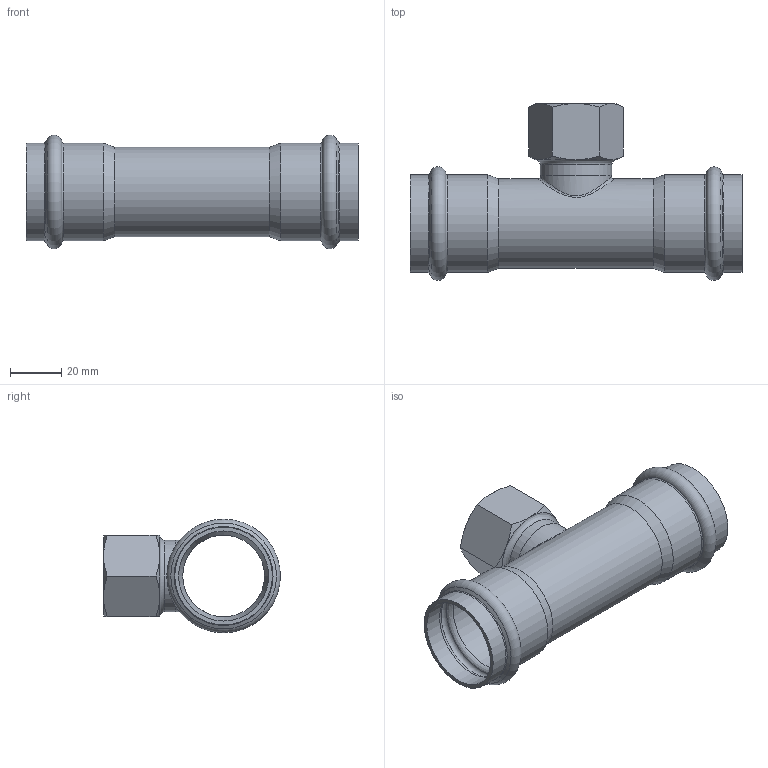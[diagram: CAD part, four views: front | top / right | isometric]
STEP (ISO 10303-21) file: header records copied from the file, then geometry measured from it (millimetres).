
FILE_DESCRIPTION((''),'2;1');
FILE_NAME('G:\Nirosan-Schmiedefeld\Technics\CAD\Bauteile VA\035\69130G353435(3).stp','2013-09-09T09:56:22',('herberg'),(''),'Autodesk Inventor 2009','Autodesk Inventor 2009','');
FILE_SCHEMA(('AUTOMOTIVE_DESIGN { 1 0 10303 214 1 1 1 1 }'));
Length unit declared in the file: millimetre
Products named in the file (3): 69130G353435(3); LM_69130352835(1); IG2834(1)
Assembly tree (2 placements, depth 2):
  69130G353435(3)
    LM_69130352835(1)
    IG2834(1)
Bounding box: 130 x 69.25 x 44.49 mm (x, y, z)
Volume: 32774.3 mm3; surface area: 36501.1 mm2
Topology: 2 solids, 2 shells, 63 faces, 137 edges, 79 vertices
Faces by surface type: cone 21, bspline 14, cylinder 13, plane 11, torus 4
Full cylindrical faces by diameter (mm): 25 x1, 28 x2, 32 x1, 35 x1, 35.25 x4, 38.25 x4
Entity records: 3330 total; most frequent: CARTESIAN_POINT 2188, DIRECTION 222, ORIENTED_EDGE 178, AXIS2_PLACEMENT_3D 108, EDGE_LOOP 108, EDGE_CURVE 89, VERTEX_POINT 69, FACE_OUTER_BOUND 63
